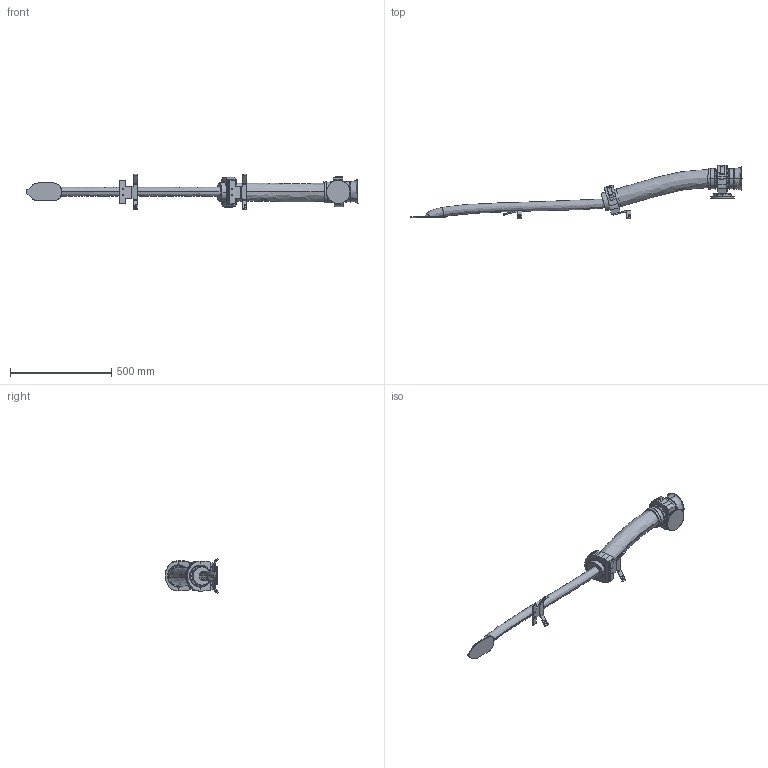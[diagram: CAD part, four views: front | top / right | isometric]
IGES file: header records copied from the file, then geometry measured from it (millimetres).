
Start section: SolidWorks IGES file using analytic representation for surfaces
Global section: file name: C:\Data\SAP_DOC\IRB6740_lightweight\6750S\IRB 6750S ASM\IRB6750S-LID-SW_185kg-390_OC_01_SW_J\IRB6750S-LID-SW_185kg-390_OC_01_IGES_J\IRB6750S-LID_ALL-390-OC_00_LINK04_CABLE.igs; native system: SolidWorks 2024; preprocessor: SolidWorks 2024; author: SEJAOLS6; date: 260513.074106; units: millimetre
Bounding box: 1639.81 x 265.3 x 174.65 mm (x, y, z)
Surface area: 512448.7 mm2 (no closed solid volume)
Topology: 0 solids, 0 shells, 456 faces, 8477 edges, 8477 vertices
Faces by surface type: bspline 258, revolution 198
